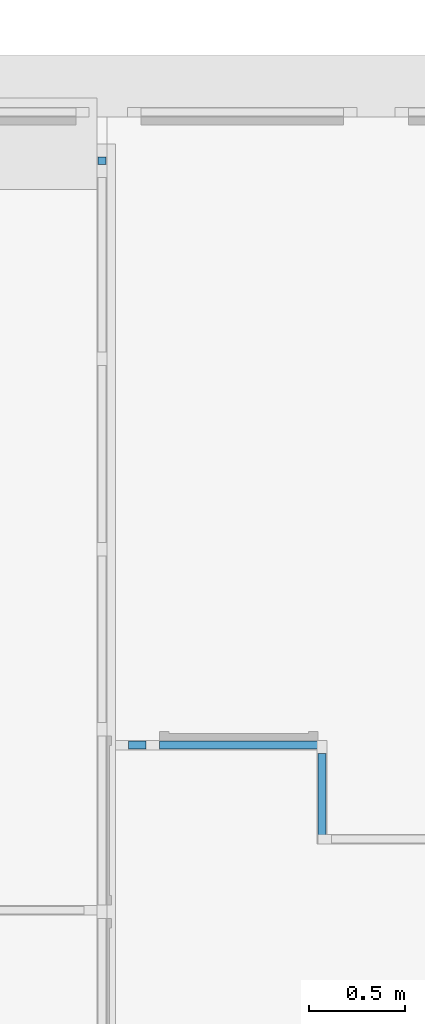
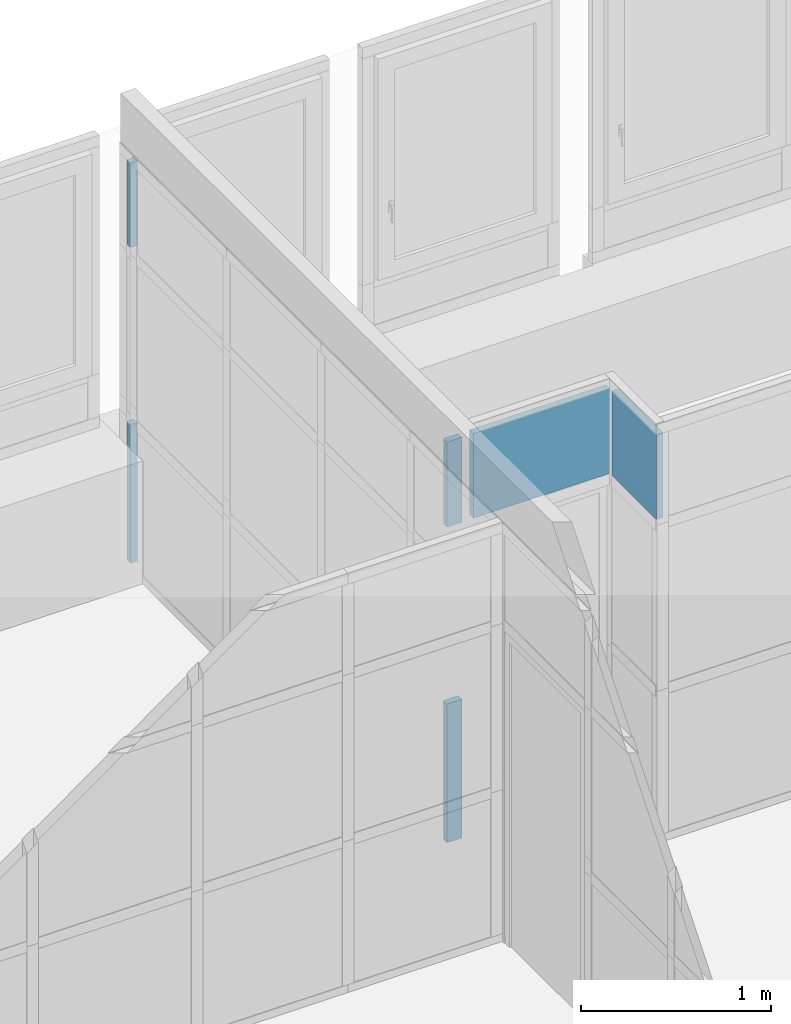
# One storey, part 36 of 97: 6 plates, 3 elements without a shape of their own.
"""IFC4 building model written with IfcOpenShell, lengths in metres."""

import ifcopenshell
import ifcopenshell.guid

model = None  # the IFC model being written
_history = None  # IfcOwnerHistory: only IFC2X3 demands one
_inside = {}  # id of a spatial element -> (the spatial element, [elements in it])
_under = {}  # id of a project, library or spatial element -> (it, [spatial elements below it])
_declared = {}  # id of a project -> (the project, [libraries it declares])
_typed = {}  # id of a type object -> (the type object, [elements of that type])
_made_of = {}  # id of a material, layer set ... -> (it, [elements and type objects made of it])


def new_model(schema):
    """Start an empty IFC model of exactly this schema.

    Asked for "IFC4X3", IfcOpenShell would pick the latest addendum, in which some entities
    have other attributes; the version numbers below select the first issue.
    IFC2X3 requires an IfcOwnerHistory on every rooted entity: one is made here for all.
    """
    global model, _history
    if schema == "IFC4X3":
        model = ifcopenshell.file(schema_version=(4, 3, 0, 0))
    else:
        model = ifcopenshell.file(schema=schema)
    _inside.clear()
    _under.clear()
    _declared.clear()
    _typed.clear()
    _made_of.clear()
    _history = None
    if model.schema == "IFC2X3":
        org = make("IfcOrganization", Name="unknown")
        user = make(
            "IfcPersonAndOrganization",
            ThePerson=make("IfcPerson", FamilyName="unknown"),
            TheOrganization=org,
        )
        app = make(
            "IfcApplication",
            ApplicationDeveloper=org,
            Version="unknown",
            ApplicationFullName="unknown",
            ApplicationIdentifier="unknown",
        )
        _history = make(
            "IfcOwnerHistory",
            OwningUser=user,
            OwningApplication=app,
            ChangeAction="ADDED",
            CreationDate=0,
        )
    return model


def make(cls, **values):
    """One entity of the class cls with the attributes given. An attribute that is None is left unset."""
    return model.create_entity(
        cls, **{name: value for name, value in values.items() if value is not None}
    )


def entity(cls, *values):
    """Any entity or typed value of the class cls, its attributes in the order of the schema. None: left unset."""
    e = model.create_entity(cls)
    for i, value in enumerate(values):
        if value is not None:
            e[i] = value
    return e


def rooted(cls, **values):
    """An entity with a GlobalId (a new one), such as an element, a storey or a relation."""
    return make(cls, GlobalId=ifcopenshell.guid.new(), OwnerHistory=_history, **values)


def si_unit(unit_type, name, prefix=None):
    """IfcSIUnit, for example si_unit("LENGTHUNIT", "METRE", prefix="MILLI")."""
    return make("IfcSIUnit", UnitType=unit_type, Prefix=prefix, Name=name)


def converted_unit(unit_type, name, factor, base, dimensions=None, offset=None):
    """IfcConversionBasedUnit, such as the inch: factor (a typed value) times the base unit."""
    return make(
        "IfcConversionBasedUnit"
        if offset is None
        else "IfcConversionBasedUnitWithOffset",
        ConversionOffset=offset,
        Dimensions=None
        if dimensions is None
        else entity("IfcDimensionalExponents", *dimensions),
        UnitType=unit_type,
        Name=name,
        ConversionFactor=make(
            "IfcMeasureWithUnit", ValueComponent=factor, UnitComponent=base
        ),
    )


def derived_unit(unit_type, elements):
    """IfcDerivedUnit: a product of units, each with its exponent."""
    return make(
        "IfcDerivedUnit",
        Elements=[
            make("IfcDerivedUnitElement", Unit=unit, Exponent=power)
            for unit, power in elements
        ],
        UnitType=unit_type,
    )


def assignment(units):
    """IfcUnitAssignment: the units of a project."""
    return None if units is None else make("IfcUnitAssignment", Units=units)


def point(xyz):
    """IfcCartesianPoint."""
    return None if xyz is None else make("IfcCartesianPoint", Coordinates=xyz)


def direction(xyz):
    """IfcDirection."""
    return None if xyz is None else make("IfcDirection", DirectionRatios=xyz)


def frame(location, z_axis=None, x_axis=None):
    """IfcAxis2Placement3D, a coordinate frame: its origin and axes. An axis left out is left unset."""
    return make(
        "IfcAxis2Placement3D",
        Location=point(location),
        Axis=direction(z_axis),
        RefDirection=direction(x_axis),
    )


def origin():
    """The frame at (0, 0, 0) with its axes left unset."""
    return frame((0.0, 0.0, 0.0))


def place(relative_to, where):
    """IfcLocalPlacement: puts the frame where relative to a parent placement (None: the world)."""
    return make(
        "IfcLocalPlacement", PlacementRelTo=relative_to, RelativePlacement=where
    )


def context(
    kind, dimensions, precision=None, world=None, true_north=None, identifier=None
):
    """IfcGeometricRepresentationContext, for example the 3D "Model" context."""
    return make(
        "IfcGeometricRepresentationContext",
        ContextIdentifier=identifier,
        ContextType=kind,
        CoordinateSpaceDimension=dimensions,
        Precision=precision,
        WorldCoordinateSystem=world,
        TrueNorth=true_north,
    )


def subcontext(parent, identifier, kind, view, scale=None):
    """IfcGeometricRepresentationSubContext, for example "Body" below "Model"."""
    return make(
        "IfcGeometricRepresentationSubContext",
        ContextIdentifier=identifier,
        ContextType=kind,
        ParentContext=parent,
        TargetScale=scale,
        TargetView=view,
    )


def project(units=None, contexts=None):
    """IfcProject with its units and contexts."""
    return rooted(
        "IfcProject",
        Name="project",
        RepresentationContexts=contexts,
        UnitsInContext=assignment(units),
    )


def spatial(cls, under=None, at=None, **own):
    """A site, building, storey or space (cls), placed at a placement, below another one or the project."""
    s = rooted(cls, ObjectPlacement=at, **own)
    if under is not None:
        _under.setdefault(under.id(), (under, []))[1].append(s)
    return s


def point_list(points):
    """IfcCartesianPointList2D or 3D."""
    cls = (
        "IfcCartesianPointList2D" if len(points[0]) == 2 else "IfcCartesianPointList3D"
    )
    return make(cls, CoordList=points)


def indexed_curve(points, segments=None, self_intersect=None):
    """IfcIndexedPolyCurve: lines and arcs through numbered points (the first is 1)."""
    return make(
        "IfcIndexedPolyCurve",
        Points=point_list(points),
        Segments=segments,
        SelfIntersect=self_intersect,
    )


def outline(outer, holes=None, kind="AREA"):
    """IfcArbitraryClosedProfileDef: a profile drawn as a closed curve; with holes, ...WithVoids."""
    if holes is None:
        return make("IfcArbitraryClosedProfileDef", ProfileType=kind, OuterCurve=outer)
    return make(
        "IfcArbitraryProfileDefWithVoids",
        ProfileType=kind,
        OuterCurve=outer,
        InnerCurves=holes,
    )


def extrude(swept, where, along, depth):
    """IfcExtrudedAreaSolid: the profile swept, set in the frame where, extruded along a direction by depth."""
    return make(
        "IfcExtrudedAreaSolid",
        SweptArea=swept,
        Position=where,
        ExtrudedDirection=direction(along),
        Depth=depth,
    )


def shape(context_of_items, identifier, shape_type, items):
    """IfcShapeRepresentation: the items that make up one representation, for example the "Body"."""
    return make(
        "IfcShapeRepresentation",
        ContextOfItems=context_of_items,
        RepresentationIdentifier=identifier,
        RepresentationType=shape_type,
        Items=items,
    )


def source(mapping_origin, context_of_items, identifier, shape_type, items):
    """IfcRepresentationMap: a shape defined once, which mapped items show again and again."""
    return make(
        "IfcRepresentationMap",
        MappingOrigin=mapping_origin,
        MappedRepresentation=shape(context_of_items, identifier, shape_type, items),
    )


def transform(
    local_origin,
    x_axis=None,
    y_axis=None,
    z_axis=None,
    scale=None,
    scale2=None,
    scale3=None,
    uniform=True,
):
    """IfcCartesianTransformationOperator3D, or its non-uniform kind. x_axis, y_axis, z_axis: its Axis1, 2, 3."""
    if uniform:
        return make(
            "IfcCartesianTransformationOperator3D",
            Axis1=direction(x_axis),
            Axis2=direction(y_axis),
            LocalOrigin=point(local_origin),
            Scale=scale,
            Axis3=direction(z_axis),
        )
    return make(
        "IfcCartesianTransformationOperator3DnonUniform",
        Axis1=direction(x_axis),
        Axis2=direction(y_axis),
        LocalOrigin=point(local_origin),
        Scale=scale,
        Axis3=direction(z_axis),
        Scale2=scale2,
        Scale3=scale3,
    )


def mapped(mapping_source, mapping_target):
    """IfcMappedItem: shows the shape of a source again, moved by a transform."""
    return make(
        "IfcMappedItem", MappingSource=mapping_source, MappingTarget=mapping_target
    )


def material(Name=None, Category=None):
    """IfcMaterial."""
    return make("IfcMaterial", Name=Name, Category=Category)


def layer(
    of_material, thickness, ventilated=None, Name=None, Category=None, Priority=None
):
    """IfcMaterialLayer: one layer of a wall or slab, of a material (None: an air gap)."""
    return make(
        "IfcMaterialLayer",
        Material=of_material,
        LayerThickness=thickness,
        IsVentilated=ventilated,
        Name=Name,
        Category=Category,
        Priority=Priority,
    )


def layer_set(layers, Name=None):
    """IfcMaterialLayerSet."""
    return make("IfcMaterialLayerSet", MaterialLayers=layers, LayerSetName=Name)


def made_of(thing, what):
    """Note that an element or type object is made of a material, layer set ...; save() writes the relation."""
    if what is not None:
        _made_of.setdefault(what.id(), (what, []))[1].append(thing)
    return thing


def type_object(cls, material=None, **own):
    """A type object (cls), such as IfcWallType, which elements share."""
    return made_of(rooted(cls, **own), material)


def type_shapes(of_type, sources):
    """Give a type object the sources (RepresentationMaps) that its elements show as mapped items."""
    of_type.RepresentationMaps = sources


def element(
    cls,
    number,
    at=None,
    inside=None,
    cuts=None,
    type_object=None,
    material=None,
    context=None,
    identifier="Body",
    shape_type=None,
    held_by="IfcProductDefinitionShape",
    body=None,
    shapes=None,
    **own,
):
    """One element of the class cls, such as IfcWall. Its Tag is "e" and its number.

    at: its placement. inside: the storey or other place that contains it. cuts: it is an
    opening in that element (IfcRelVoidsElement). A single representation is given by context,
    identifier, shape_type and body (its items); several are given by shapes. held_by: the class
    of the entity that holds the representations. save() writes the other relations.
    """
    e = rooted(cls, Tag="e%d" % number, ObjectPlacement=at, **own)
    if body is not None:
        shapes = [shape(context, identifier, shape_type, body)]
    if shapes is not None:
        e.Representation = make(held_by, Representations=shapes)
    if inside is not None:
        _inside.setdefault(inside.id(), (inside, []))[1].append(e)
    if cuts is not None:
        rooted(
            "IfcRelVoidsElement", RelatingBuildingElement=cuts, RelatedOpeningElement=e
        )
    if type_object is not None:
        _typed.setdefault(type_object.id(), (type_object, []))[1].append(e)
    return made_of(e, material)


def aggregate(whole, parts):
    """IfcRelAggregates: a whole, such as a stair, and the parts it consists of."""
    return rooted("IfcRelAggregates", RelatingObject=whole, RelatedObjects=parts)


def save(model, path):
    """Write the relations noted so far, then the file.

    IfcRelAggregates (storeys below a building ...), IfcRelContainedInSpatialStructure (elements
    in a storey), IfcRelDefinesByType, IfcRelAssociatesMaterial and IfcRelDeclares: one each for
    every whole, place, type object, material and project.
    """
    for whole, parts in _under.values():
        aggregate(whole, parts)
    for where, things in _inside.values():
        rooted(
            "IfcRelContainedInSpatialStructure",
            RelatedElements=things,
            RelatingStructure=where,
        )
    for kind, things in _typed.values():
        rooted("IfcRelDefinesByType", RelatedObjects=things, RelatingType=kind)
    for what, things in _made_of.values():
        rooted("IfcRelAssociatesMaterial", RelatedObjects=things, RelatingMaterial=what)
    for by, libraries in _declared.values():
        rooted("IfcRelDeclares", RelatingContext=by, RelatedDefinitions=libraries)
    model.write(path)


model = new_model("IFC4")

# Units and contexts
model_context = context("Model", 3, precision=1e-05, world=origin(), true_north=direction((6.12303176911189e-17, 1.0)))
body_context = subcontext(model_context, "Body", "Model", "MODEL_VIEW")
footprint_context = subcontext(model_context, "FootPrint", "Model", "MODEL_VIEW")
ifc_project = project(units=[si_unit("LENGTHUNIT", "METRE"), si_unit("AREAUNIT", "SQUARE_METRE"), si_unit("VOLUMEUNIT", "CUBIC_METRE"), converted_unit("PLANEANGLEUNIT", "DEGREE", entity("IfcRatioMeasure", 0.0174532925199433), si_unit("PLANEANGLEUNIT", "RADIAN"), dimensions=[0, 0, 0, 0, 0, 0, 0]), si_unit("MASSUNIT", "GRAM", prefix="KILO"), derived_unit("MASSDENSITYUNIT", [(si_unit("MASSUNIT", "GRAM", prefix="KILO"), 1), (si_unit("LENGTHUNIT", "METRE"), -3)]), derived_unit("MOMENTOFINERTIAUNIT", [(si_unit("LENGTHUNIT", "METRE"), 4)]), si_unit("TIMEUNIT", "SECOND"), si_unit("FREQUENCYUNIT", "HERTZ"), si_unit("THERMODYNAMICTEMPERATUREUNIT", "DEGREE_CELSIUS"), derived_unit("THERMALTRANSMITTANCEUNIT", [(si_unit("MASSUNIT", "GRAM", prefix="KILO"), 1), (si_unit("THERMODYNAMICTEMPERATUREUNIT", "KELVIN"), -1), (si_unit("TIMEUNIT", "SECOND"), -3)]), derived_unit("VOLUMETRICFLOWRATEUNIT", [(si_unit("LENGTHUNIT", "METRE"), 3), (si_unit("TIMEUNIT", "SECOND"), -1)]), si_unit("ELECTRICCURRENTUNIT", "AMPERE"), si_unit("ELECTRICVOLTAGEUNIT", "VOLT"), si_unit("POWERUNIT", "WATT"), si_unit("FORCEUNIT", "NEWTON", prefix="KILO"), si_unit("ILLUMINANCEUNIT", "LUX"), si_unit("LUMINOUSFLUXUNIT", "LUMEN"), si_unit("LUMINOUSINTENSITYUNIT", "CANDELA"), derived_unit("USERDEFINED", [(si_unit("MASSUNIT", "GRAM", prefix="KILO"), -1), (si_unit("LENGTHUNIT", "METRE"), -2), (si_unit("TIMEUNIT", "SECOND"), 3), (si_unit("LUMINOUSFLUXUNIT", "LUMEN"), 1)]), derived_unit("LINEARVELOCITYUNIT", [(si_unit("LENGTHUNIT", "METRE"), 1), (si_unit("TIMEUNIT", "SECOND"), -1)]), si_unit("PRESSUREUNIT", "PASCAL"), derived_unit("USERDEFINED", [(si_unit("LENGTHUNIT", "METRE"), -2), (si_unit("MASSUNIT", "GRAM", prefix="KILO"), 1), (si_unit("TIMEUNIT", "SECOND"), -2)]), derived_unit("LINEARFORCEUNIT", [(si_unit("MASSUNIT", "GRAM", prefix="KILO"), 1), (si_unit("LENGTHUNIT", "METRE"), 1), (si_unit("TIMEUNIT", "SECOND"), -2), (si_unit("LENGTHUNIT", "METRE"), -1)]), derived_unit("PLANARFORCEUNIT", [(si_unit("MASSUNIT", "GRAM", prefix="KILO"), 1), (si_unit("LENGTHUNIT", "METRE"), 1), (si_unit("TIMEUNIT", "SECOND"), -2), (si_unit("LENGTHUNIT", "METRE"), -2)])], contexts=[model_context])

# Site, building, storey
site_placement = place(None, origin())
site = spatial("IfcSite", under=ifc_project, at=site_placement, Name="Default", CompositionType="ELEMENT")
building_placement = place(site_placement, origin())
building = spatial("IfcBuilding", under=site, at=building_placement, Name="HOTEL CONSULAIRE BOULOGNE SUR MER", CompositionType="ELEMENT")
storey_placement = place(building_placement, frame((0.0, 0.0, 3.62152697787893)))
storey = spatial("IfcBuildingStorey", under=building, at=storey_placement, Name="Niveau 1", CompositionType="ELEMENT", Elevation=3.62152697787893)

# Curtain wall, plates
curtain_wall_type = type_object("IfcCurtainWallType", Name="Mur-rideau:Simple panneau", PredefinedType="NOTDEFINED")
curtain_wall_1_placement = place(storey_placement, frame((0.0, 0.0, -3.62152697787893)))
curtain_wall_1 = element("IfcCurtainWall", 1, at=curtain_wall_1_placement, inside=storey, type_object=curtain_wall_type, Name="Mur-rideau:Simple panneau", ObjectType="Mur-rideau:Simple panneau", PredefinedType="NOTDEFINED")
ifc_material = material(Name="Verre", Category="Verre")
ifc_layer_1 = layer(ifc_material, 0.04, Name="Verre", Category="Verre")
ifc_layer_set_1 = layer_set([ifc_layer_1], Name="Mur-rideau:Simple panneau")
plate_type_1 = type_object("IfcPlateType", Name="Panneau système:Vitré", PredefinedType="CURTAIN_PANEL", material=ifc_layer_set_1)
shared_shape_1 = source(origin(), body_context, "Body", "SweptSolid", [
    extrude(outline(indexed_curve([(-0.02, -0.0186540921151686), (0.02, -0.0186540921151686), (0.02, 0.0186540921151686), (-0.02, 0.0186540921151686), (-0.02, -0.0186540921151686)], self_intersect=False)), frame((0.0186540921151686, 0.02, 0.0), z_axis=(0.0, 0.0, 1.0), x_axis=(0.0, 1.0, 0.0)), (0.0, 0.0, 1.0), 0.891960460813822),
])
shared_shape_2 = source(frame((-0.0186540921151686, 0.0050000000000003, 0.0)), footprint_context, "FootPrint", "Curve2D", [
    entity("IfcIndexedPolyCurve", entity("IfcCartesianPointList2D", [[0.024339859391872, 0.00347600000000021], [0.024339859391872, 0.0434760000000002], [-0.0129683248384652, 0.0434760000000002], [-0.0129683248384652, 0.00347600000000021], [0.024339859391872, 0.00347600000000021]]), None, False),
])
type_shapes(plate_type_1, [shared_shape_1, shared_shape_2])
plate_1_placement = place(curtain_wall_1_placement, frame((-9.65462464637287, -10.3226323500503, 3.67152697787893), z_axis=(0.0, 0.0, 1.0), x_axis=(0.0, 1.0, 0.0)))
plate_1 = element("IfcPlate", 2, at=plate_1_placement, type_object=plate_type_1, material=ifc_layer_set_1, Name="Panneau système:Vitré", ObjectType="Panneau système:Vitré", PredefinedType="CURTAIN_PANEL", shapes=[
    shape(body_context, "Body", "MappedRepresentation", [mapped(shared_shape_1, transform((0.0, 0.0, 0.0), scale=1.0))]),
    shape(body_context, "Body", "MappedRepresentation", [mapped(shared_shape_2, transform((0.0, 0.0, 0.0), scale=1.0))]),
])
plate_type_2 = type_object("IfcPlateType", Name="Panneau système:Vitré", PredefinedType="CURTAIN_PANEL", material=ifc_layer_set_1)
shared_shape_3 = source(origin(), body_context, "Body", "SweptSolid", [
    extrude(outline(indexed_curve([(-0.02, -0.0186540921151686), (0.02, -0.0186540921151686), (0.02, 0.0186540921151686), (-0.02, 0.0186540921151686), (-0.02, -0.0186540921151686)], self_intersect=False)), frame((0.0186540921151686, 0.02, 0.0), z_axis=(0.0, 0.0, 1.0), x_axis=(0.0, 1.0, 0.0)), (0.0, 0.0, 1.0), 0.546),
])
shared_shape_4 = source(frame((-0.0186540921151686, 0.0050000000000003, 0.0)), footprint_context, "FootPrint", "Curve2D", [
    entity("IfcIndexedPolyCurve", entity("IfcCartesianPointList2D", [[0.024339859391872, 0.00347600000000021], [0.024339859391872, 0.0434760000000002], [-0.0129683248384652, 0.0434760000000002], [-0.0129683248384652, 0.00347600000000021], [0.024339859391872, 0.00347600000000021]]), None, False),
])
type_shapes(plate_type_2, [shared_shape_3, shared_shape_4])
plate_2_placement = place(curtain_wall_1_placement, frame((-9.65462464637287, -10.3226323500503, 5.70248743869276), z_axis=(0.0, 0.0, 1.0), x_axis=(0.0, 1.0, 0.0)))
plate_2 = element("IfcPlate", 3, at=plate_2_placement, type_object=plate_type_2, material=ifc_layer_set_1, Name="Panneau système:Vitré", ObjectType="Panneau système:Vitré", PredefinedType="CURTAIN_PANEL", shapes=[
    shape(body_context, "Body", "MappedRepresentation", [mapped(shared_shape_3, transform((0.0, 0.0, 0.0), scale=1.0))]),
    shape(body_context, "Body", "MappedRepresentation", [mapped(shared_shape_4, transform((0.0, 0.0, 0.0), scale=1.0))]),
])
aggregate(curtain_wall_1, [plate_1, plate_2])

curtain_wall_2_placement = place(storey_placement, frame((0.0, 0.0, -3.62152697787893)))
curtain_wall_2 = element("IfcCurtainWall", 4, at=curtain_wall_2_placement, inside=storey, type_object=curtain_wall_type, Name="Mur-rideau:Simple panneau", ObjectType="Mur-rideau:Simple panneau", PredefinedType="NOTDEFINED")
ifc_layer_2 = layer(ifc_material, 0.04, Name="Verre", Category="Verre")
ifc_layer_set_2 = layer_set([ifc_layer_2], Name="Mur-rideau:Simple panneau")
plate_type_3 = type_object("IfcPlateType", Name="Panneau système:Plein", PredefinedType="CURTAIN_PANEL", material=ifc_layer_set_2)
shared_shape_5 = source(origin(), body_context, "Body", "SweptSolid", [
    extrude(outline(indexed_curve([(-0.02, -0.0454999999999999), (0.02, -0.0454999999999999), (0.02, 0.0454999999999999), (-0.02, 0.0454999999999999), (-0.02, -0.0454999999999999)], self_intersect=False)), frame((0.0454999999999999, 0.02, 0.0), z_axis=(0.0, 0.0, 1.0), x_axis=(0.0, 1.0, 0.0)), (0.0, 0.0, 1.0), 0.892),
])
shared_shape_6 = source(frame((-0.0454999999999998, 0.00499999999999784, 0.0)), footprint_context, "FootPrint", "Curve2D", [
    entity("IfcIndexedPolyCurve", entity("IfcCartesianPointList2D", [[0.0593684, 0.0034759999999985], [0.0593684, 0.0434759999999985], [-0.0316315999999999, 0.0434759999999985], [-0.0316315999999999, 0.0034759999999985], [0.0593684, 0.0034759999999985]]), None, False),
])
type_shapes(plate_type_3, [shared_shape_5, shared_shape_6])
plate_3_placement = place(curtain_wall_2_placement, frame((-9.44362464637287, -13.3395509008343, 3.67152697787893), z_axis=(0.0, 0.0, 1.0), x_axis=(-1.0, 0.0, 0.0)))
plate_3 = element("IfcPlate", 5, at=plate_3_placement, type_object=plate_type_3, material=ifc_layer_set_2, Name="Panneau système:Plein", ObjectType="Panneau système:Plein", PredefinedType="CURTAIN_PANEL", shapes=[
    shape(body_context, "Body", "MappedRepresentation", [mapped(shared_shape_5, transform((0.0, 0.0, 0.0), scale=1.0))]),
    shape(body_context, "Body", "MappedRepresentation", [mapped(shared_shape_6, transform((0.0, 0.0, 0.0), scale=1.0))]),
])
plate_type_4 = type_object("IfcPlateType", Name="Panneau système:Vitré", PredefinedType="CURTAIN_PANEL", material=ifc_layer_set_1)
shared_shape_7 = source(origin(), body_context, "Body", "SweptSolid", [
    extrude(outline(indexed_curve([(-0.02, -0.414828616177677), (0.02, -0.414828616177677), (0.02, 0.414828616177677), (-0.02, 0.414828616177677), (-0.02, -0.414828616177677)], self_intersect=False)), frame((0.414828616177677, 0.02, 0.0), z_axis=(0.0, 0.0, 1.0), x_axis=(0.0, 1.0, 0.0)), (0.0, 0.0, 1.0), 0.546),
])
shared_shape_8 = source(frame((-0.414828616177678, 0.00500000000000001, 0.0)), footprint_context, "FootPrint", "Curve2D", [
    entity("IfcIndexedPolyCurve", entity("IfcCartesianPointList2D", [[0.541268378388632, 0.003476], [0.541268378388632, 0.043476], [-0.288388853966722, 0.043476], [-0.288388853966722, 0.003476], [0.541268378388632, 0.003476]]), None, False),
])
type_shapes(plate_type_4, [shared_shape_7, shared_shape_8])
plate_4_placement = place(curtain_wall_2_placement, frame((-8.54396741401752, -13.3395509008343, 5.70248743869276), z_axis=(0.0, 0.0, 1.0), x_axis=(-1.0, 0.0, 0.0)))
plate_4 = element("IfcPlate", 6, at=plate_4_placement, type_object=plate_type_4, material=ifc_layer_set_1, Name="Panneau système:Vitré", ObjectType="Panneau système:Vitré", PredefinedType="CURTAIN_PANEL", shapes=[
    shape(body_context, "Body", "MappedRepresentation", [mapped(shared_shape_7, transform((0.0, 0.0, 0.0), scale=1.0))]),
    shape(body_context, "Body", "MappedRepresentation", [mapped(shared_shape_8, transform((0.0, 0.0, 0.0), scale=1.0))]),
])
plate_type_5 = type_object("IfcPlateType", Name="Panneau système:Vitré", PredefinedType="CURTAIN_PANEL", material=ifc_layer_set_1)
shared_shape_9 = source(origin(), body_context, "Body", "SweptSolid", [
    extrude(outline(indexed_curve([(-0.02, -0.0454999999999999), (0.02, -0.0454999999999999), (0.02, 0.0454999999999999), (-0.02, 0.0454999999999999), (-0.02, -0.0454999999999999)], self_intersect=False)), frame((0.0454999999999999, 0.02, 0.0), z_axis=(0.0, 0.0, 1.0), x_axis=(0.0, 1.0, 0.0)), (0.0, 0.0, 1.0), 0.546),
])
shared_shape_10 = source(frame((-0.0454999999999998, 0.00499999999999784, 0.0)), footprint_context, "FootPrint", "Curve2D", [
    entity("IfcIndexedPolyCurve", entity("IfcCartesianPointList2D", [[0.0593684, 0.0034759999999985], [0.0593684, 0.0434759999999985], [-0.0316315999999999, 0.0434759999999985], [-0.0316315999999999, 0.0034759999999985], [0.0593684, 0.0034759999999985]]), None, False),
])
type_shapes(plate_type_5, [shared_shape_9, shared_shape_10])
plate_5_placement = place(curtain_wall_2_placement, frame((-9.44362464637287, -13.3395509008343, 5.70248743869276), z_axis=(0.0, 0.0, 1.0), x_axis=(-1.0, 0.0, 0.0)))
plate_5 = element("IfcPlate", 7, at=plate_5_placement, type_object=plate_type_5, material=ifc_layer_set_1, Name="Panneau système:Vitré", ObjectType="Panneau système:Vitré", PredefinedType="CURTAIN_PANEL", shapes=[
    shape(body_context, "Body", "MappedRepresentation", [mapped(shared_shape_9, transform((0.0, 0.0, 0.0), scale=1.0))]),
    shape(body_context, "Body", "MappedRepresentation", [mapped(shared_shape_10, transform((0.0, 0.0, 0.0), scale=1.0))]),
])
aggregate(curtain_wall_2, [plate_3, plate_4, plate_5])

# Curtain wall, plate
curtain_wall_3_placement = place(storey_placement, frame((0.0, 0.0, -3.62152697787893)))
curtain_wall_3 = element("IfcCurtainWall", 8, at=curtain_wall_3_placement, inside=storey, type_object=curtain_wall_type, Name="Mur-rideau:Simple panneau", ObjectType="Mur-rideau:Simple panneau", PredefinedType="NOTDEFINED")
plate_type_6 = type_object("IfcPlateType", Name="Panneau système:Vitré", PredefinedType="CURTAIN_PANEL", material=ifc_layer_set_1)
shared_shape_11 = source(origin(), body_context, "Body", "SweptSolid", [
    extrude(outline(indexed_curve([(-0.02, -0.233181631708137), (0.02, -0.233181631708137), (0.02, 0.233181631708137), (-0.02, 0.233181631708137), (-0.02, -0.233181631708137)], self_intersect=False)), frame((0.233181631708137, 0.02, 0.0), z_axis=(0.0, 0.0, 1.0), x_axis=(0.0, 1.0, 0.0)), (0.0, 0.0, 1.0), 0.546),
])
shared_shape_12 = source(frame((-0.233181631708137, 0.00499999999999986, 0.0)), footprint_context, "FootPrint", "Curve2D", [
    entity("IfcIndexedPolyCurve", entity("IfcCartesianPointList2D", [[0.304255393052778, 0.0034759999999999], [0.304255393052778, 0.0434759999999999], [-0.162107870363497, 0.0434759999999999], [-0.162107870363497, 0.0034759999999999], [0.304255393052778, 0.0034759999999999]]), None, False),
])
type_shapes(plate_type_6, [shared_shape_11, shared_shape_12])
plate_6_placement = place(curtain_wall_3_placement, frame((-8.50396741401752, -13.8709141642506, 5.70248743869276), z_axis=(0.0, 0.0, 1.0), x_axis=(0.0, 1.0, 0.0)))
plate_6 = element("IfcPlate", 9, at=plate_6_placement, type_object=plate_type_6, material=ifc_layer_set_1, Name="Panneau système:Vitré", ObjectType="Panneau système:Vitré", PredefinedType="CURTAIN_PANEL", shapes=[
    shape(body_context, "Body", "MappedRepresentation", [mapped(shared_shape_11, transform((0.0, 0.0, 0.0), scale=1.0))]),
    shape(body_context, "Body", "MappedRepresentation", [mapped(shared_shape_12, transform((0.0, 0.0, 0.0), scale=1.0))]),
])
aggregate(curtain_wall_3, [plate_6])

save(model, "model.ifc")
